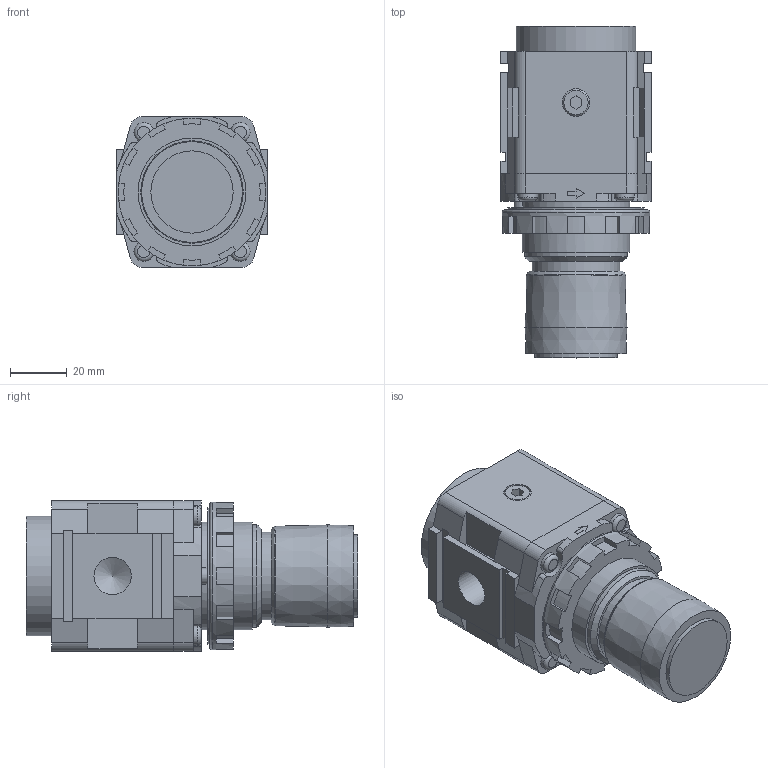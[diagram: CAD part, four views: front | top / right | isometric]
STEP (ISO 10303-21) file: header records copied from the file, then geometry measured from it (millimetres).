
FILE_DESCRIPTION(/* description */ ('STEP AP203'),/* implementation_level */ '2;1');
FILE_NAME(/* name */ 'AR30-02H-D(1)',/* time_stamp */ '2026-03-25T01:43:42+01:00',/* author */ ('License CC BY-ND 4.0'),/* organization */ ('CADENAS'),/* preprocessor_version */ 'ST-DEVELOPER v20',/* originating_system */ 'PARTsolutions',/* authorisation */ ' ');
FILE_SCHEMA (('CONFIG_CONTROL_DESIGN'));
Length unit declared in the file: millimetre
Products named in the file (5): AR30-02H-D(1); AR30-02H-D(1)_BODY; AR30-D_BOWL; AR33P-260S_SETNUT; 1/8
Assembly tree (5 placements, depth 2):
  AR30-02H-D(1)
    AR30-02H-D(1)_BODY
    AR30-D_BOWL
    AR33P-260S_SETNUT
    1/8  x2
Bounding box: 53 x 117 x 53 mm (x, y, z)
Volume: 205206.4 mm3; surface area: 37183.8 mm2
Topology: 5 solids, 5 shells, 290 faces, 762 edges, 504 vertices
Faces by surface type: plane 201, cylinder 69, cone 14, torus 6
Full cylindrical faces by diameter (mm): 7 x4, 9.728 x4, 13.157 x2, 29 x1, 31 x1, 36.11 x1, 36.376 x1, 36.4 x1, 38 x1, 42 x1, 44 x1, 48 x1, 52 x1
Entity records: 8423 total; most frequent: CARTESIAN_POINT 1448, DIRECTION 1442, ORIENTED_EDGE 1372, EDGE_CURVE 686, LINE 498, VECTOR 498, VERTEX_POINT 478, AXIS2_PLACEMENT_3D 472
